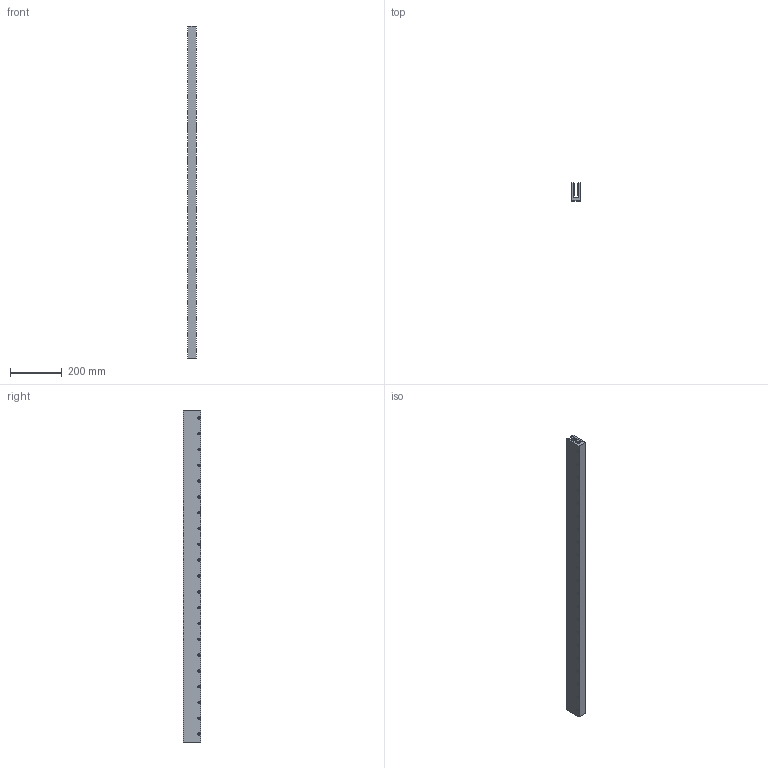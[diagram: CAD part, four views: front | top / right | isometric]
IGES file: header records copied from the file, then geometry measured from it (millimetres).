
Global section: file name: No Iges File Name specified; native system: Autodesk Inventor 2012; preprocessor: AutoDesk Inventor Iges Exporter R2012; author: je17857; date: 20120511.155722; units: inch
Bounding box: 34.29 x 67.31 x 1279.91 mm (x, y, z)
Volume: 1903262.3 mm3; surface area: 484723.5 mm2
Topology: 1 solids, 1 shells, 535 faces, 1221 edges, 814 vertices
Faces by surface type: plane 472, revolution 63
